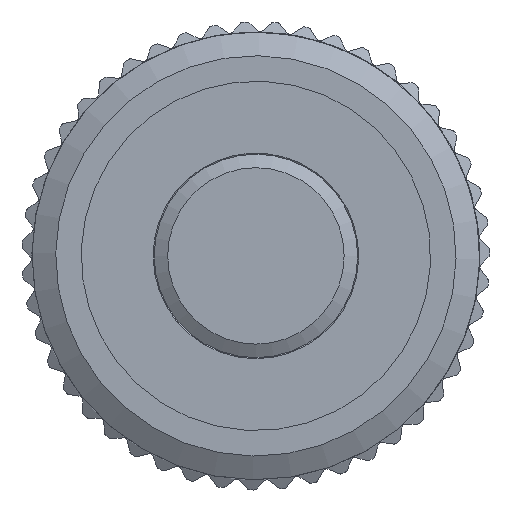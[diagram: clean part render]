
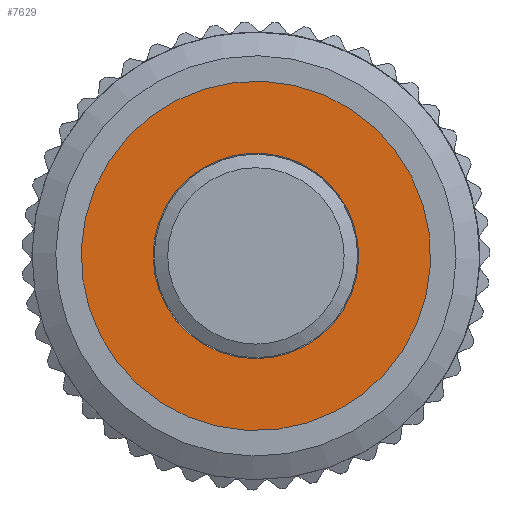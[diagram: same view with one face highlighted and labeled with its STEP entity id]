
A CAD part, left-side view. The second image highlights one B-rep face of the part: STEP entity #7629.
In plain terms, the highlighted planar face has unit normal (-1, 0, 0).
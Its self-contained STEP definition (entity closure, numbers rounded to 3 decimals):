
#1885=FACE_OUTER_BOUND($,#2389,.T.);
#2323=FACE_BOUND($,#2390,.T.);
#2389=EDGE_LOOP($,(#5085));
#2390=EDGE_LOOP($,(#5086));
#2846=CIRCLE($,#8093,5.15);
#2849=CIRCLE($,#8098,3.03);
#2986=VERTEX_POINT($,#10140);
#2989=VERTEX_POINT($,#10148);
#3820=EDGE_CURVE($,#2986,#2986,#2846,.T.);
#3823=EDGE_CURVE($,#2989,#2989,#2849,.T.);
#5085=ORIENTED_EDGE($,*,*,#3820,.T.);
#5086=ORIENTED_EDGE($,*,*,#3823,.F.);
#7458=PLANE($,#8097);
#7629=ADVANCED_FACE($,(#1885,#2323),#7458,.T.);
#8093=AXIS2_PLACEMENT_3D($,#10141,#8660,#8661);
#8097=AXIS2_PLACEMENT_3D($,#10147,#8668,#8669);
#8098=AXIS2_PLACEMENT_3D($,#10149,#8670,#8671);
#8660=DIRECTION('center_axis',(-1.,0.,0.));
#8661=DIRECTION('ref_axis',(0.,-0.796,0.605));
#8668=DIRECTION('center_axis',(-1.,0.,0.));
#8669=DIRECTION('ref_axis',(0.,-0.796,0.605));
#8670=DIRECTION('center_axis',(-1.,0.,0.));
#8671=DIRECTION('ref_axis',(0.,0.796,-0.605));
#10140=CARTESIAN_POINT('',(5.261,3.319,-3.115));
#10141=CARTESIAN_POINT('Origin',(5.261,-0.782,0.));
#10147=CARTESIAN_POINT('Origin',(5.261,-0.782,0.));
#10148=CARTESIAN_POINT('',(5.261,-3.194,1.833));
#10149=CARTESIAN_POINT('Origin',(5.261,-0.782,0.));
